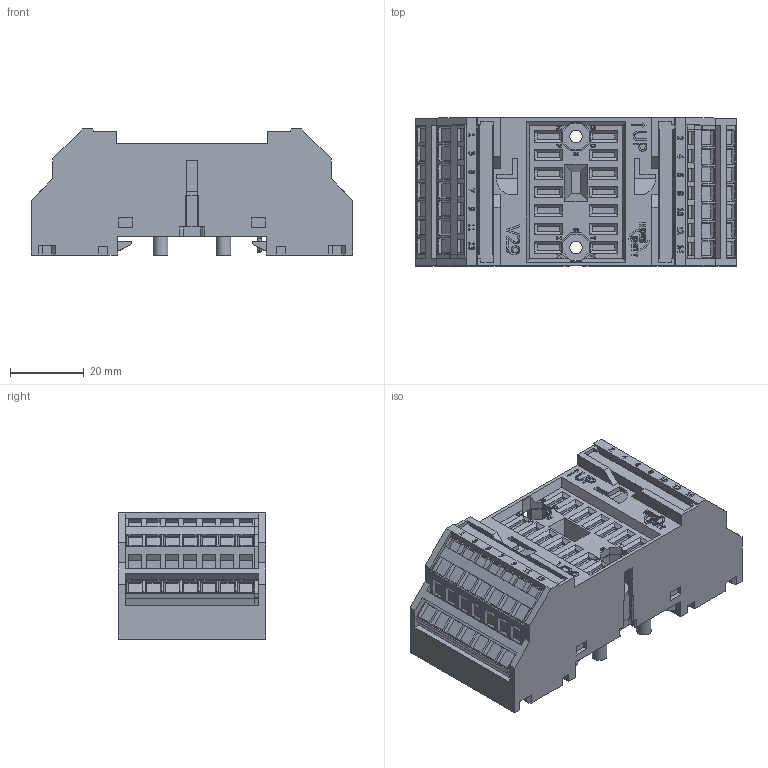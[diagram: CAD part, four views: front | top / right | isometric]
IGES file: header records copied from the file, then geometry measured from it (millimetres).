
Global section: file name: No Iges File Name specified; native system: Autodesk Inventor 2011; preprocessor: AutoDesk Inventor Iges Exporter R2011; author: a.vos; date: 20101026.093333; units: millimetre
Bounding box: 87 x 40 x 34.11 mm (x, y, z)
Volume: 85160.7 mm3; surface area: 19969.2 mm2
Topology: 1 solids, 126 shells, 2984 faces, 7770 edges, 5085 vertices
Faces by surface type: plane 2086, bspline 307, revolution 301, torus 126, cylinder 116, cone 48
